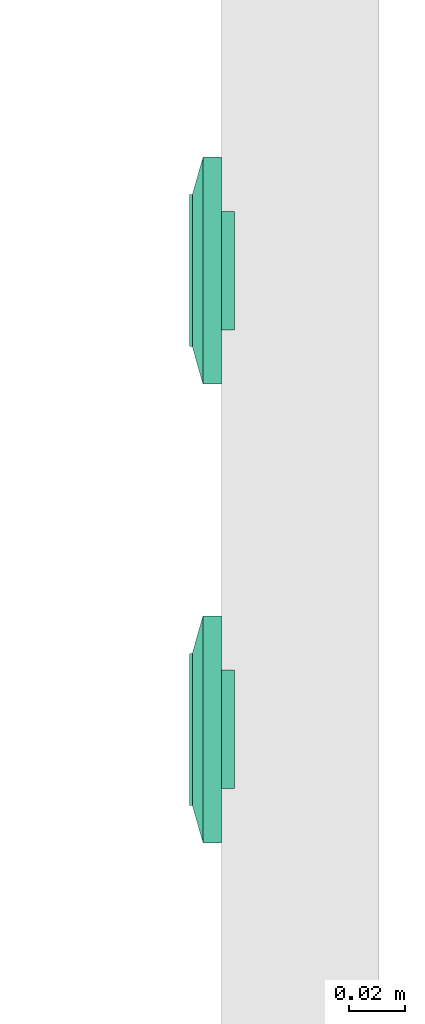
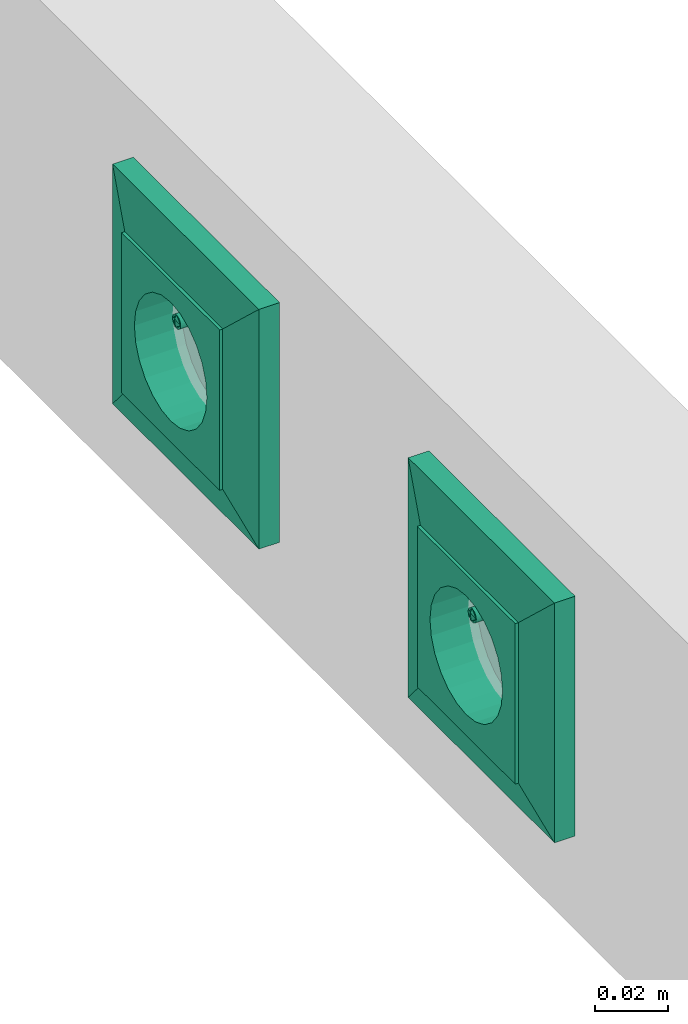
# One storey, part 42 of 166: 2 flow terminals.
"""IFC2X3 building model written with IfcOpenShell, lengths in metres."""

import ifcopenshell
import ifcopenshell.guid

model = None  # the IFC model being written
_history = None  # IfcOwnerHistory: only IFC2X3 demands one
_inside = {}  # id of a spatial element -> (the spatial element, [elements in it])
_under = {}  # id of a project, library or spatial element -> (it, [spatial elements below it])
_declared = {}  # id of a project -> (the project, [libraries it declares])
_typed = {}  # id of a type object -> (the type object, [elements of that type])
_made_of = {}  # id of a material, layer set ... -> (it, [elements and type objects made of it])


def new_model(schema):
    """Start an empty IFC model of exactly this schema.

    Asked for "IFC4X3", IfcOpenShell would pick the latest addendum, in which some entities
    have other attributes; the version numbers below select the first issue.
    IFC2X3 requires an IfcOwnerHistory on every rooted entity: one is made here for all.
    """
    global model, _history
    if schema == "IFC4X3":
        model = ifcopenshell.file(schema_version=(4, 3, 0, 0))
    else:
        model = ifcopenshell.file(schema=schema)
    _inside.clear()
    _under.clear()
    _declared.clear()
    _typed.clear()
    _made_of.clear()
    _history = None
    if model.schema == "IFC2X3":
        org = make("IfcOrganization", Name="unknown")
        user = make(
            "IfcPersonAndOrganization",
            ThePerson=make("IfcPerson", FamilyName="unknown"),
            TheOrganization=org,
        )
        app = make(
            "IfcApplication",
            ApplicationDeveloper=org,
            Version="unknown",
            ApplicationFullName="unknown",
            ApplicationIdentifier="unknown",
        )
        _history = make(
            "IfcOwnerHistory",
            OwningUser=user,
            OwningApplication=app,
            ChangeAction="ADDED",
            CreationDate=0,
        )
    return model


def make(cls, **values):
    """One entity of the class cls with the attributes given. An attribute that is None is left unset."""
    return model.create_entity(
        cls, **{name: value for name, value in values.items() if value is not None}
    )


def entity(cls, *values):
    """Any entity or typed value of the class cls, its attributes in the order of the schema. None: left unset."""
    e = model.create_entity(cls)
    for i, value in enumerate(values):
        if value is not None:
            e[i] = value
    return e


def rooted(cls, **values):
    """An entity with a GlobalId (a new one), such as an element, a storey or a relation."""
    return make(cls, GlobalId=ifcopenshell.guid.new(), OwnerHistory=_history, **values)


def si_unit(unit_type, name, prefix=None):
    """IfcSIUnit, for example si_unit("LENGTHUNIT", "METRE", prefix="MILLI")."""
    return make("IfcSIUnit", UnitType=unit_type, Prefix=prefix, Name=name)


def converted_unit(unit_type, name, factor, base, dimensions=None, offset=None):
    """IfcConversionBasedUnit, such as the inch: factor (a typed value) times the base unit."""
    return make(
        "IfcConversionBasedUnit"
        if offset is None
        else "IfcConversionBasedUnitWithOffset",
        ConversionOffset=offset,
        Dimensions=None
        if dimensions is None
        else entity("IfcDimensionalExponents", *dimensions),
        UnitType=unit_type,
        Name=name,
        ConversionFactor=make(
            "IfcMeasureWithUnit", ValueComponent=factor, UnitComponent=base
        ),
    )


def derived_unit(unit_type, elements):
    """IfcDerivedUnit: a product of units, each with its exponent."""
    return make(
        "IfcDerivedUnit",
        Elements=[
            make("IfcDerivedUnitElement", Unit=unit, Exponent=power)
            for unit, power in elements
        ],
        UnitType=unit_type,
    )


def assignment(units):
    """IfcUnitAssignment: the units of a project."""
    return None if units is None else make("IfcUnitAssignment", Units=units)


def point(xyz):
    """IfcCartesianPoint."""
    return None if xyz is None else make("IfcCartesianPoint", Coordinates=xyz)


def direction(xyz):
    """IfcDirection."""
    return None if xyz is None else make("IfcDirection", DirectionRatios=xyz)


def frame(location, z_axis=None, x_axis=None):
    """IfcAxis2Placement3D, a coordinate frame: its origin and axes. An axis left out is left unset."""
    return make(
        "IfcAxis2Placement3D",
        Location=point(location),
        Axis=direction(z_axis),
        RefDirection=direction(x_axis),
    )


def origin():
    """The frame at (0, 0, 0) with its axes left unset."""
    return frame((0.0, 0.0, 0.0))


def place(relative_to, where):
    """IfcLocalPlacement: puts the frame where relative to a parent placement (None: the world)."""
    return make(
        "IfcLocalPlacement", PlacementRelTo=relative_to, RelativePlacement=where
    )


def context(
    kind, dimensions, precision=None, world=None, true_north=None, identifier=None
):
    """IfcGeometricRepresentationContext, for example the 3D "Model" context."""
    return make(
        "IfcGeometricRepresentationContext",
        ContextIdentifier=identifier,
        ContextType=kind,
        CoordinateSpaceDimension=dimensions,
        Precision=precision,
        WorldCoordinateSystem=world,
        TrueNorth=true_north,
    )


def subcontext(parent, identifier, kind, view, scale=None):
    """IfcGeometricRepresentationSubContext, for example "Body" below "Model"."""
    return make(
        "IfcGeometricRepresentationSubContext",
        ContextIdentifier=identifier,
        ContextType=kind,
        ParentContext=parent,
        TargetScale=scale,
        TargetView=view,
    )


def project(units=None, contexts=None):
    """IfcProject with its units and contexts."""
    return rooted(
        "IfcProject",
        Name="project",
        RepresentationContexts=contexts,
        UnitsInContext=assignment(units),
    )


def spatial(cls, under=None, at=None, **own):
    """A site, building, storey or space (cls), placed at a placement, below another one or the project."""
    s = rooted(cls, ObjectPlacement=at, **own)
    if under is not None:
        _under.setdefault(under.id(), (under, []))[1].append(s)
    return s


def faces_of(points, faces, orient=None, outer=None):
    """IfcFace entities. A face is a list of loops; a loop is a list of indices into points, from 0.

    orient and outer hold one flag for each loop. By default every Orientation is true, the
    first loop of a face is its IfcFaceOuterBound and the others are IfcFaceBound.
    """
    made = []
    for i, loops in enumerate(faces):
        bounds = []
        for j, loop in enumerate(loops):
            is_outer = j == 0 if outer is None else outer[i][j]
            bounds.append(
                make(
                    "IfcFaceOuterBound" if is_outer else "IfcFaceBound",
                    Bound=make("IfcPolyLoop", Polygon=[points[k] for k in loop]),
                    Orientation=True if orient is None else orient[i][j],
                )
            )
        made.append(make("IfcFace", Bounds=bounds))
    return made


def face_set(faces, orient=None, outer=None):
    """The faces of one IfcConnectedFaceSet. surface_model builds it on its shared points."""
    return ("IfcConnectedFaceSet", faces, orient, outer)


def surface_model(cls, points, shells):
    """IfcFaceBasedSurfaceModel or IfcShellBasedSurfaceModel (cls): surfaces that need not close."""
    shared = [point(p) for p in points]
    made = [make(c, CfsFaces=faces_of(shared, fs, o, b)) for c, fs, o, b in shells]
    if cls == "IfcFaceBasedSurfaceModel":
        return make(cls, FbsmFaces=made)
    return make(cls, SbsmBoundary=made)


def shape(context_of_items, identifier, shape_type, items):
    """IfcShapeRepresentation: the items that make up one representation, for example the "Body"."""
    return make(
        "IfcShapeRepresentation",
        ContextOfItems=context_of_items,
        RepresentationIdentifier=identifier,
        RepresentationType=shape_type,
        Items=items,
    )


def source(mapping_origin, context_of_items, identifier, shape_type, items):
    """IfcRepresentationMap: a shape defined once, which mapped items show again and again."""
    return make(
        "IfcRepresentationMap",
        MappingOrigin=mapping_origin,
        MappedRepresentation=shape(context_of_items, identifier, shape_type, items),
    )


def transform(
    local_origin,
    x_axis=None,
    y_axis=None,
    z_axis=None,
    scale=None,
    scale2=None,
    scale3=None,
    uniform=True,
):
    """IfcCartesianTransformationOperator3D, or its non-uniform kind. x_axis, y_axis, z_axis: its Axis1, 2, 3."""
    if uniform:
        return make(
            "IfcCartesianTransformationOperator3D",
            Axis1=direction(x_axis),
            Axis2=direction(y_axis),
            LocalOrigin=point(local_origin),
            Scale=scale,
            Axis3=direction(z_axis),
        )
    return make(
        "IfcCartesianTransformationOperator3DnonUniform",
        Axis1=direction(x_axis),
        Axis2=direction(y_axis),
        LocalOrigin=point(local_origin),
        Scale=scale,
        Axis3=direction(z_axis),
        Scale2=scale2,
        Scale3=scale3,
    )


def mapped(mapping_source, mapping_target):
    """IfcMappedItem: shows the shape of a source again, moved by a transform."""
    return make(
        "IfcMappedItem", MappingSource=mapping_source, MappingTarget=mapping_target
    )


def made_of(thing, what):
    """Note that an element or type object is made of a material, layer set ...; save() writes the relation."""
    if what is not None:
        _made_of.setdefault(what.id(), (what, []))[1].append(thing)
    return thing


def type_object(cls, material=None, **own):
    """A type object (cls), such as IfcWallType, which elements share."""
    return made_of(rooted(cls, **own), material)


def type_shapes(of_type, sources):
    """Give a type object the sources (RepresentationMaps) that its elements show as mapped items."""
    of_type.RepresentationMaps = sources


def element(
    cls,
    number,
    at=None,
    inside=None,
    cuts=None,
    type_object=None,
    material=None,
    context=None,
    identifier="Body",
    shape_type=None,
    held_by="IfcProductDefinitionShape",
    body=None,
    shapes=None,
    **own,
):
    """One element of the class cls, such as IfcWall. Its Tag is "e" and its number.

    at: its placement. inside: the storey or other place that contains it. cuts: it is an
    opening in that element (IfcRelVoidsElement). A single representation is given by context,
    identifier, shape_type and body (its items); several are given by shapes. held_by: the class
    of the entity that holds the representations. save() writes the other relations.
    """
    e = rooted(cls, Tag="e%d" % number, ObjectPlacement=at, **own)
    if body is not None:
        shapes = [shape(context, identifier, shape_type, body)]
    if shapes is not None:
        e.Representation = make(held_by, Representations=shapes)
    if inside is not None:
        _inside.setdefault(inside.id(), (inside, []))[1].append(e)
    if cuts is not None:
        rooted(
            "IfcRelVoidsElement", RelatingBuildingElement=cuts, RelatedOpeningElement=e
        )
    if type_object is not None:
        _typed.setdefault(type_object.id(), (type_object, []))[1].append(e)
    return made_of(e, material)


def aggregate(whole, parts):
    """IfcRelAggregates: a whole, such as a stair, and the parts it consists of."""
    return rooted("IfcRelAggregates", RelatingObject=whole, RelatedObjects=parts)


def save(model, path):
    """Write the relations noted so far, then the file.

    IfcRelAggregates (storeys below a building ...), IfcRelContainedInSpatialStructure (elements
    in a storey), IfcRelDefinesByType, IfcRelAssociatesMaterial and IfcRelDeclares: one each for
    every whole, place, type object, material and project.
    """
    for whole, parts in _under.values():
        aggregate(whole, parts)
    for where, things in _inside.values():
        rooted(
            "IfcRelContainedInSpatialStructure",
            RelatedElements=things,
            RelatingStructure=where,
        )
    for kind, things in _typed.values():
        rooted("IfcRelDefinesByType", RelatedObjects=things, RelatingType=kind)
    for what, things in _made_of.values():
        rooted("IfcRelAssociatesMaterial", RelatedObjects=things, RelatingMaterial=what)
    for by, libraries in _declared.values():
        rooted("IfcRelDeclares", RelatingContext=by, RelatedDefinitions=libraries)
    model.write(path)


model = new_model("IFC2X3")

# Units and contexts
model_context = context("Model", 3, precision=1e-05, world=origin(), true_north=direction((6.12303176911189e-17, 1.0)))
body_context = subcontext(model_context, "Body", "Model", "MODEL_VIEW")
ifc_project = project(units=[si_unit("LENGTHUNIT", "METRE"), si_unit("AREAUNIT", "SQUARE_METRE"), si_unit("VOLUMEUNIT", "CUBIC_METRE"), converted_unit("PLANEANGLEUNIT", "DEGREE", entity("IfcRatioMeasure", 0.0174532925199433), si_unit("PLANEANGLEUNIT", "RADIAN"), dimensions=[0, 0, 0, 0, 0, 0, 0]), si_unit("MASSUNIT", "GRAM", prefix="KILO"), derived_unit("MASSDENSITYUNIT", [(si_unit("MASSUNIT", "GRAM", prefix="KILO"), 1), (si_unit("LENGTHUNIT", "METRE"), -3)]), si_unit("TIMEUNIT", "SECOND"), si_unit("FREQUENCYUNIT", "HERTZ"), si_unit("THERMODYNAMICTEMPERATUREUNIT", "DEGREE_CELSIUS"), derived_unit("THERMALTRANSMITTANCEUNIT", [(si_unit("MASSUNIT", "GRAM", prefix="KILO"), 1), (si_unit("THERMODYNAMICTEMPERATUREUNIT", "KELVIN"), -1), (si_unit("TIMEUNIT", "SECOND"), -3)]), derived_unit("VOLUMETRICFLOWRATEUNIT", [(si_unit("LENGTHUNIT", "METRE"), 3), (si_unit("TIMEUNIT", "SECOND"), -1)]), si_unit("ELECTRICCURRENTUNIT", "AMPERE"), si_unit("ELECTRICVOLTAGEUNIT", "VOLT"), si_unit("POWERUNIT", "WATT"), si_unit("FORCEUNIT", "NEWTON"), si_unit("ILLUMINANCEUNIT", "LUX"), si_unit("LUMINOUSFLUXUNIT", "LUMEN"), si_unit("LUMINOUSINTENSITYUNIT", "CANDELA"), derived_unit("USERDEFINED", [(si_unit("MASSUNIT", "GRAM", prefix="KILO"), -1), (si_unit("LENGTHUNIT", "METRE"), -2), (si_unit("TIMEUNIT", "SECOND"), 3), (si_unit("LUMINOUSFLUXUNIT", "LUMEN"), 1)]), derived_unit("LINEARVELOCITYUNIT", [(si_unit("LENGTHUNIT", "METRE"), 1), (si_unit("TIMEUNIT", "SECOND"), -1)]), si_unit("PRESSUREUNIT", "PASCAL"), derived_unit("USERDEFINED", [(si_unit("LENGTHUNIT", "METRE"), -2), (si_unit("MASSUNIT", "GRAM", prefix="KILO"), 1), (si_unit("TIMEUNIT", "SECOND"), -2)])], contexts=[model_context])

# Site, building, storey
site_placement = place(None, origin())
site = spatial("IfcSite", under=ifc_project, at=site_placement, Name="Default", CompositionType="ELEMENT")
building_placement = place(site_placement, origin())
building = spatial("IfcBuilding", under=site, at=building_placement, CompositionType="ELEMENT")
storey_placement = place(building_placement, frame((0.0, 0.0, 4.27)))
storey = spatial("IfcBuildingStorey", under=building, at=storey_placement, Name="01", CompositionType="ELEMENT", Elevation=4.27)

# Flow terminals
light_fixture_type = type_object("IfcLightFixtureType", Name="PC IP20", PredefinedType="NOTDEFINED")
shared_shape = source(origin(), body_context, "Body", "SurfaceModel", [
    surface_model("IfcFaceBasedSurfaceModel", [(-0.00225000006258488, 0.0127499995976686, 0.00949633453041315), (0.0, 0.0104999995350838, 0.00949633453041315), (0.0, 0.0115376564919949, 0.0101656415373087), (0.0, 0.0139623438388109, 0.0101656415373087), (0.0, 0.0144589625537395, 0.00984531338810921), (0.0, 0.0121178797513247, 0.0102778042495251), (0.0, 0.0133821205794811, 0.0102778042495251), (0.0, 0.0127499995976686, 0.010399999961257), (0.0, 0.0149999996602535, 0.00949633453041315), (0.00225000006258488, 0.0127499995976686, 0.00949633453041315), (0.0, 0.0110410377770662, 0.00984531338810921), (0.0, 0.0127499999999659, 0.00949633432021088), (0.00225000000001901, 0.0127499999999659, 0.00949633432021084), (0.00217333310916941, 0.0121676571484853, 0.00949633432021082), (0.00194855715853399, 0.0116249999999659, 0.00949633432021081), (0.00159099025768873, 0.0111590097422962, 0.00949633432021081), (0.001125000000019, 0.010801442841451, 0.00949633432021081), (0.00058234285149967, 0.0105766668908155, 0.00949633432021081), (0.0, 0.0104999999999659, 0.00949633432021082), (-0.000582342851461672, 0.0105766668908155, 0.00949633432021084), (-0.001124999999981, 0.010801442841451, 0.00949633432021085), (-0.00159099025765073, 0.0111590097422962, 0.00949633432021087), (-0.00194855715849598, 0.011624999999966, 0.00949633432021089), (-0.0021733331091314, 0.0121676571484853, 0.00949633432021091), (-0.00224999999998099, 0.012749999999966, 0.00949633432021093), (-0.00217333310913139, 0.0133323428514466, 0.00949633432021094), (-0.00194855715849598, 0.013874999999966, 0.00949633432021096), (-0.00159099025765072, 0.0143409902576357, 0.00949633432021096), (-0.00112499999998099, 0.0146985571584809, 0.00949633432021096), (-0.00058234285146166, 0.0149233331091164, 0.00949633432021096), (0.0, 0.0149999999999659, 0.00949633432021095), (0.000582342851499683, 0.0149233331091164, 0.00949633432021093), (0.00112500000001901, 0.0146985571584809, 0.00949633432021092), (0.00159099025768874, 0.0143409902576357, 0.00949633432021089), (0.001948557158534, 0.0138749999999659, 0.00949633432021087), (0.00217333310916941, 0.0133323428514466, 0.00949633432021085), (0.00225000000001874, 0.0127499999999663, -0.00360000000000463), (0.00217333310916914, 0.0121676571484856, -0.00360000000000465), (0.00194855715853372, 0.0116249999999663, -0.00360000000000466), (0.00159099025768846, 0.0111590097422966, -0.00360000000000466), (0.00112500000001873, 0.0108014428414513, -0.00360000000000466), (0.000582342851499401, 0.0105766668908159, -0.00360000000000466), (0.0, 0.0104999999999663, -0.00360000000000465), (-0.000582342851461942, 0.0105766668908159, -0.00360000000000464), (-0.00112499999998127, 0.0108014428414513, -0.00360000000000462), (-0.001590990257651, 0.0111590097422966, -0.0036000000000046), (-0.00194855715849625, 0.0116249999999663, -0.00360000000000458), (-0.00217333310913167, 0.0121676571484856, -0.00360000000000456), (-0.00224999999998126, 0.0127499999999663, -0.00360000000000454), (-0.00217333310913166, 0.013332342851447, -0.00360000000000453), (-0.00194855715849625, 0.0138749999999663, -0.00360000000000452), (-0.00159099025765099, 0.014340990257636, -0.00360000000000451), (-0.00112499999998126, 0.0146985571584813, -0.00360000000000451), (-0.000582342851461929, 0.0149233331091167, -0.00360000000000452), (0.0, 0.0149999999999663, -0.00360000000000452), (0.000582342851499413, 0.0149233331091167, -0.00360000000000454), (0.00112500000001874, 0.0146985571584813, -0.00360000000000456), (0.00159099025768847, 0.014340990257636, -0.00360000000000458), (0.00194855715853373, 0.0138749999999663, -0.0036000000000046), (0.00217333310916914, 0.013332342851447, -0.00360000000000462), (0.0270000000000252, 0.026999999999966, 0.0113999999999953), (-0.0269999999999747, 0.026999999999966, 0.0113999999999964), (-0.0269999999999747, -0.0270000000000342, 0.0113999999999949), (0.0270000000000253, -0.0270000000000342, 0.0113999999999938), (-0.0199999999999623, 0.0, 0.0113999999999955), (-0.0193185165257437, -0.00517638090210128, 0.0113999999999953), (-0.0173205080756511, -0.0100000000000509, 0.0113999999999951), (-0.0141421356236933, -0.0141421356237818, 0.011399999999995), (-0.00999999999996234, -0.0173205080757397, 0.0113999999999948), (-0.00517638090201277, -0.0193185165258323, 0.0113999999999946), (0.0, -0.0200000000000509, 0.0113999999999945), (0.00517638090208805, -0.0193185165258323, 0.0113999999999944), (0.0100000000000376, -0.0173205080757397, 0.0113999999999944), (0.0141421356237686, -0.0141421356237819, 0.0113999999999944), (0.0173205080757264, -0.010000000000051, 0.0113999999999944), (0.0193185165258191, -0.00517638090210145, 0.0113999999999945), (0.0200000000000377, 0.0, 0.0113999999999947), (0.0193185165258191, 0.00517638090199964, 0.0113999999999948), (0.0173205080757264, 0.0099999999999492, 0.011399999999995), (0.0141421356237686, 0.0141421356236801, 0.0113999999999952), (0.0100000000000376, 0.0173205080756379, 0.0113999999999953), (0.00517638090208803, 0.0193185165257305, 0.0113999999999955), (0.0, 0.0199999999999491, 0.0113999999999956), (-0.00517638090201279, 0.0193185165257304, 0.0113999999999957), (-0.00999999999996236, 0.0173205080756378, 0.0113999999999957), (-0.0141421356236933, 0.01414213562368, 0.0113999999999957), (-0.0173205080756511, 0.00999999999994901, 0.0113999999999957), (-0.0193185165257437, 0.00517638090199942, 0.0113999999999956), (0.0270000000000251, 0.0269999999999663, 0.00199999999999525), (0.0270000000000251, -0.0270000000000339, 0.00199999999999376), (-0.0269999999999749, -0.0270000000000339, 0.00199999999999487), (-0.0269999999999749, 0.0269999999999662, 0.00199999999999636), (0.0210000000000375, 0.0, 0.00199999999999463), (0.0202844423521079, -0.00543519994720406, 0.00199999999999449), (0.0181865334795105, -0.0105000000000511, 0.0019999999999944), (0.0148492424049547, -0.0148492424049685, 0.00199999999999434), (0.0105000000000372, -0.0181865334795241, 0.00199999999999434), (0.0054351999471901, -0.0202844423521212, 0.00199999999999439), (0.0, -0.0210000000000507, 0.00199999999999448), (-0.00543519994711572, -0.020284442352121, 0.00199999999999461), (-0.0104999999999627, -0.0181865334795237, 0.00199999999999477), (-0.0148492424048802, -0.014849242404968, 0.00199999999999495), (-0.0181865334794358, -0.0105000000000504, 0.00199999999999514), (-0.020284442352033, -0.00543519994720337, 0.00199999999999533), (-0.0209999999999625, 0.0, 0.00199999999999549), (-0.0202844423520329, 0.0054351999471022, 0.00199999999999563), (-0.0181865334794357, 0.0104999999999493, 0.00199999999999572), (-0.01484924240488, 0.0148492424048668, 0.00199999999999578), (-0.0104999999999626, 0.0181865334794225, 0.00199999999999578), (-0.00543519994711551, 0.0202844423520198, 0.00199999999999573), (0.0, 0.0209999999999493, 0.00199999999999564), (0.00543519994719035, 0.0202844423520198, 0.00199999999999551), (0.0105000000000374, 0.0181865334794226, 0.00199999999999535), (0.0148492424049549, 0.0148492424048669, 0.00199999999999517), (0.0181865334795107, 0.0104999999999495, 0.00199999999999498), (0.0202844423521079, 0.00543519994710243, 0.00199999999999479), (0.0200000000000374, 0.0, -0.00360000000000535), (0.0193185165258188, -0.00517638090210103, -0.00360000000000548), (0.0173205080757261, -0.0100000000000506, -0.00360000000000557), (0.0141421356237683, -0.0141421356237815, -0.00360000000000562), (0.0100000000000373, -0.0173205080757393, -0.00360000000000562), (0.00517638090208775, -0.0193185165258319, -0.00360000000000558), (0.0, -0.0200000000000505, -0.00360000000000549), (-0.00517638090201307, -0.0193185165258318, -0.00360000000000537), (-0.00999999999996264, -0.0173205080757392, -0.00360000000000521), (-0.0141421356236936, -0.0141421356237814, -0.00360000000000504), (-0.0173205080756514, -0.0100000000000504, -0.00360000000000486), (-0.019318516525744, -0.00517638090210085, -0.00360000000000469), (-0.0199999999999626, 0.0, -0.00360000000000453), (-0.0193185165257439, 0.00517638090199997, -0.0036000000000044), (-0.0173205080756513, 0.00999999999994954, -0.00360000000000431), (-0.0141421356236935, 0.0141421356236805, -0.00360000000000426), (-0.00999999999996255, 0.0173205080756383, -0.00360000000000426), (-0.00517638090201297, 0.0193185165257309, -0.0036000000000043), (0.0, 0.0199999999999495, -0.00360000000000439), (0.00517638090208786, 0.0193185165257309, -0.00360000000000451), (0.0100000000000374, 0.0173205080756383, -0.00360000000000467), (0.0141421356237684, 0.0141421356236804, -0.00360000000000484), (0.0173205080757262, 0.0099999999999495, -0.00360000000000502), (0.0193185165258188, 0.00517638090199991, -0.00360000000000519), (-0.0123499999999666, 0.0, -0.00360000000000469), (-0.0122562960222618, -0.000711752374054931, -0.00360000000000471), (-0.0119815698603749, -0.00137500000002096, -0.00360000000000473), (-0.0115445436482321, -0.00194454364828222, -0.00360000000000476), (-0.0109749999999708, -0.00238156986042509, -0.00360000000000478), (-0.0103117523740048, -0.00265629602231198, -0.0036000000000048), (-0.00959999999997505, -0.00275000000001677, -0.00360000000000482), (-0.0088882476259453, -0.00265629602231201, -0.00360000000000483), (-0.00822499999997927, -0.00238156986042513, -0.00360000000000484), (-0.00765545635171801, -0.00194454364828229, -0.00360000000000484), (-0.00721843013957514, -0.00137500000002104, -0.00360000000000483), (-0.00694370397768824, -0.000711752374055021, -0.00360000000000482), (-0.00684999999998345, 0.0, -0.0036000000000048), (-0.00694370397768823, 0.000711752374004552, -0.00360000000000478), (-0.00721843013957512, 0.00137499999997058, -0.00360000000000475), (-0.00765545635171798, 0.00194454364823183, -0.00360000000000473), (-0.00822499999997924, 0.00238156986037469, -0.0036000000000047), (-0.00888824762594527, 0.00265629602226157, -0.00360000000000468), (-0.00959999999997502, 0.00274999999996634, -0.00360000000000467), (-0.0103117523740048, 0.00265629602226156, -0.00360000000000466), (-0.0109749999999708, 0.00238156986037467, -0.00360000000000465), (-0.011544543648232, 0.00194454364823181, -0.00360000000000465), (-0.0119815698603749, 0.00137499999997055, -0.00360000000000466), (-0.0122562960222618, 0.000711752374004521, -0.00360000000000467), (0.00685000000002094, 0.0, -0.00360000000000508), (0.0069437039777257, -0.00071175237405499, -0.0036000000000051), (0.00721843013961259, -0.00137500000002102, -0.00360000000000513), (0.00765545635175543, -0.00194454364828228, -0.00360000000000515), (0.00822500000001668, -0.00238156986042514, -0.00360000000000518), (0.00888824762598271, -0.00265629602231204, -0.0036000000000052), (0.00960000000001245, -0.00275000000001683, -0.00360000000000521), (0.0103117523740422, -0.00265629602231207, -0.00360000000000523), (0.0109750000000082, -0.00238156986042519, -0.00360000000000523), (0.0115445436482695, -0.00194454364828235, -0.00360000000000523), (0.0119815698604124, -0.0013750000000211, -0.00360000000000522), (0.0122562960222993, -0.00071175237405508, -0.00360000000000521), (0.012350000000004, 0.0, -0.00360000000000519), (0.0122562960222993, 0.000711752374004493, -0.00360000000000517), (0.0119815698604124, 0.00137499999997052, -0.00360000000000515), (0.0115445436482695, 0.00194454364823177, -0.00360000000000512), (0.0109750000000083, 0.00238156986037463, -0.0036000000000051), (0.0103117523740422, 0.00265629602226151, -0.00360000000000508), (0.00960000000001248, 0.00274999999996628, -0.00360000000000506), (0.00888824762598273, 0.0026562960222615, -0.00360000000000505), (0.0082250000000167, 0.00238156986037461, -0.00360000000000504), (0.00765545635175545, 0.00194454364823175, -0.00360000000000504), (0.0072184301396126, 0.00137499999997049, -0.00360000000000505), (0.00694370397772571, 0.000711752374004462, -0.00360000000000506), (0.0210000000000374, 0.0, -0.00460000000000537), (0.0202844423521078, -0.00543519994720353, -0.00460000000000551), (0.0181865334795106, -0.0105000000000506, -0.0046000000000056), (0.0148492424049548, -0.0148492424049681, -0.00460000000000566), (0.0105000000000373, -0.0181865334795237, -0.00460000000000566), (0.00543519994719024, -0.0202844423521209, -0.00460000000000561), (0.0, -0.0210000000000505, -0.00460000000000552), (-0.00543519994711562, -0.0202844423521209, -0.00460000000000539), (-0.0104999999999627, -0.0181865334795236, -0.00460000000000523), (-0.0148492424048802, -0.0148492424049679, -0.00460000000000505), (-0.0181865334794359, -0.0105000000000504, -0.00460000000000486), (-0.0202844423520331, -0.00543519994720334, -0.00460000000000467), (-0.0209999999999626, 0.0, -0.00460000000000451), (-0.020284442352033, 0.00543519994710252, -0.00460000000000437), (-0.0181865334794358, 0.0104999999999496, -0.00460000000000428), (-0.0148492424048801, 0.0148492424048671, -0.00460000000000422), (-0.0104999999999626, 0.0181865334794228, -0.00460000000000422), (-0.00543519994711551, 0.02028444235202, -0.00460000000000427), (0.0, 0.0209999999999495, -0.00460000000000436), (0.00543519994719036, 0.02028444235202, -0.00460000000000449), (0.0105000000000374, 0.0181865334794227, -0.00460000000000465), (0.0148492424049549, 0.014849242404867, -0.00460000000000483), (0.0181865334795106, 0.0104999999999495, -0.00460000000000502), (0.0202844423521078, 0.00543519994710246, -0.00460000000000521), (-0.00684999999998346, 0.0, -0.0046000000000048), (-0.00694370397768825, 0.000711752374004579, -0.00460000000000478), (-0.00721843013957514, 0.00137499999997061, -0.00460000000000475), (-0.007655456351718, 0.00194454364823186, -0.00460000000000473), (-0.00822499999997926, 0.00238156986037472, -0.0046000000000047), (-0.00888824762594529, 0.0026562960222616, -0.00460000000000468), (-0.00959999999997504, 0.00274999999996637, -0.00460000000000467), (-0.0103117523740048, 0.00265629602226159, -0.00460000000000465), (-0.0109749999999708, 0.0023815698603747, -0.00460000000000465), (-0.0115445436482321, 0.00194454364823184, -0.00460000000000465), (-0.0119815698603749, 0.00137499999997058, -0.00460000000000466), (-0.0122562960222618, 0.000711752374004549, -0.00460000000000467), (-0.0123499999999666, 0.0, -0.00460000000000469), (-0.0122562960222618, -0.000711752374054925, -0.00460000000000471), (-0.0119815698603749, -0.00137500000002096, -0.00460000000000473), (-0.0115445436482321, -0.00194454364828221, -0.00460000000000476), (-0.0109749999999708, -0.00238156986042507, -0.00460000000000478), (-0.0103117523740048, -0.00265629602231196, -0.0046000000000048), (-0.00959999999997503, -0.00275000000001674, -0.00460000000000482), (-0.00888824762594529, -0.00265629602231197, -0.00460000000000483), (-0.00822499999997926, -0.00238156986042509, -0.00460000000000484), (-0.007655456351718, -0.00194454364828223, -0.00460000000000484), (-0.00721843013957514, -0.00137500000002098, -0.00460000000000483), (-0.00694370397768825, -0.000711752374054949, -0.00460000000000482), (0.012350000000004, 0.0, -0.00460000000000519), (0.0122562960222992, 0.000711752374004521, -0.00460000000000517), (0.0119815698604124, 0.00137499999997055, -0.00460000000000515), (0.0115445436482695, 0.0019445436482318, -0.00460000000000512), (0.0109750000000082, 0.00238156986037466, -0.0046000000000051), (0.0103117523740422, 0.00265629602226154, -0.00460000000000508), (0.00960000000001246, 0.00274999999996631, -0.00460000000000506), (0.00888824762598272, 0.00265629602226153, -0.00460000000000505), (0.00822500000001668, 0.00238156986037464, -0.00460000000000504), (0.00765545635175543, 0.00194454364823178, -0.00460000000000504), (0.00721843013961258, 0.00137499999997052, -0.00460000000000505), (0.00694370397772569, 0.00071175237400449, -0.00460000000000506), (0.00685000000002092, 0.0, -0.00460000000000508), (0.00694370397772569, -0.000711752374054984, -0.0046000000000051), (0.00721843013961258, -0.00137500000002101, -0.00460000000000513), (0.00765545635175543, -0.00194454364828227, -0.00460000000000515), (0.00822500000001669, -0.00238156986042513, -0.00460000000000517), (0.00888824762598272, -0.00265629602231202, -0.0046000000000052), (0.00960000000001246, -0.0027500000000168, -0.00460000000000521), (0.0103117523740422, -0.00265629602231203, -0.00460000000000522), (0.0109750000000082, -0.00238156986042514, -0.00460000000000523), (0.0115445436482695, -0.00194454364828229, -0.00460000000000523), (0.0119815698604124, -0.00137500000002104, -0.00460000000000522), (0.0122562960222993, -0.000711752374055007, -0.00460000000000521), (0.040350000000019, 0.0403499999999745, 0.00659999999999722), (0.040350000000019, -0.0403500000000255, 0.00659999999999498), (-0.0403499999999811, -0.0403500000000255, 0.00659999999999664), (-0.0403499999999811, 0.0403499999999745, 0.00659999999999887), (0.027000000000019, 0.0269999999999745, 0.00659999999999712), (-0.0269999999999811, 0.0269999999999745, 0.00659999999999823), (-0.026999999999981, -0.0270000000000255, 0.00659999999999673), (0.027000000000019, -0.0270000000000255, 0.00659999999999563), (0.027000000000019, 0.0269999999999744, 0.0103999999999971), (-0.026999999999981, 0.0269999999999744, 0.0103999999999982), (-0.026999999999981, -0.0270000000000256, 0.0103999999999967), (0.027000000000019, -0.0270000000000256, 0.0103999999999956), (0.040350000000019, 0.0403499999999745, 0.00659999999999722), (0.040350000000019, -0.0403500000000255, 0.00659999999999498), (-0.0403499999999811, -0.0403500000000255, 0.00659999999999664), (-0.0403499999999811, 0.0403499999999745, 0.00659999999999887), (-0.0269999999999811, 0.0269999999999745, 0.00659999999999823), (-0.0269999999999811, -0.0270000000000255, 0.00659999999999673), (0.0270000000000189, -0.0270000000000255, 0.00659999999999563), (0.0270000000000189, 0.0269999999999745, 0.00659999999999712), (0.0403500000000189, 0.0403499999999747, 0.0), (0.0403500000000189, -0.0403500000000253, 0.0), (-0.0403499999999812, -0.0403500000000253, 0.0), (-0.0403499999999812, 0.0403499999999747, 0.0), (0.0270000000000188, 0.0269999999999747, 0.0), (-0.0269999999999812, 0.0269999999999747, 0.0), (-0.0269999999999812, -0.0270000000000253, 0.0), (0.0270000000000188, -0.0270000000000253, 0.0)], [face_set([[[0, 1, 2]], [[3, 4, 2, 5]], [[6, 3, 5, 7]], [[2, 4, 0]], [[4, 8, 0]], [[3, 9, 8]], [[1, 9, 10]], [[2, 3, 6, 7]], [[3, 10, 9]], [[2, 10, 3]], [[11, 1, 0, 8]], [[11, 8, 9, 1]]]), face_set([[[12, 13, 14, 15, 16, 17, 18, 19, 20, 21, 22, 23, 24, 25, 26, 27, 28, 29, 30, 31, 32, 33, 34, 35]], [[36, 37, 38, 39, 40, 41, 42, 43, 44, 45, 46, 47, 48, 49, 50, 51, 52, 53, 54, 55, 56, 57, 58, 59]], [[48, 47, 23, 24]], [[47, 46, 22, 23]], [[45, 44, 20, 21]], [[46, 45, 21, 22]], [[44, 43, 19, 20]], [[18, 19, 43, 42]], [[42, 41, 17, 18]], [[41, 40, 16, 17]], [[39, 38, 14, 15]], [[40, 39, 15, 16]], [[38, 37, 13, 14]], [[12, 13, 37, 36]], [[36, 59, 35, 12]], [[59, 58, 34, 35]], [[57, 56, 32, 33]], [[58, 57, 33, 34]], [[56, 55, 31, 32]], [[30, 31, 55, 54]], [[54, 53, 29, 30]], [[53, 52, 28, 29]], [[51, 50, 26, 27]], [[52, 51, 27, 28]], [[50, 49, 25, 26]], [[24, 25, 49, 48]]]), face_set([[[60, 61, 62, 63], [64, 65, 66, 67, 68, 69, 70, 71, 72, 73, 74, 75, 76, 77, 78, 79, 80, 81, 82, 83, 84, 85, 86, 87]], [[88, 89, 90, 91], [92, 93, 94, 95, 96, 97, 98, 99, 100, 101, 102, 103, 104, 105, 106, 107, 108, 109, 110, 111, 112, 113, 114, 115]], [[61, 60, 88, 91]], [[62, 61, 91, 90]], [[63, 62, 90, 89]], [[60, 63, 89, 88]], [[116, 117, 118, 119, 120, 121, 122, 123, 124, 125, 126, 127, 128, 129, 130, 131, 132, 133, 134, 135, 136, 137, 138, 139], [140, 141, 142, 143, 144, 145, 146, 147, 148, 149, 150, 151, 152, 153, 154, 155, 156, 157, 158, 159, 160, 161, 162, 163], [164, 165, 166, 167, 168, 169, 170, 171, 172, 173, 174, 175, 176, 177, 178, 179, 180, 181, 182, 183, 184, 185, 186, 187]], [[64, 128, 127, 65]], [[65, 127, 126, 66]], [[67, 125, 124, 68]], [[66, 126, 125, 67]], [[68, 124, 123, 69]], [[122, 70, 69, 123]], [[70, 122, 121, 71]], [[71, 121, 120, 72]], [[73, 119, 118, 74]], [[72, 120, 119, 73]], [[74, 118, 117, 75]], [[116, 76, 75, 117]], [[76, 116, 139, 77]], [[77, 139, 138, 78]], [[79, 137, 136, 80]], [[78, 138, 137, 79]], [[80, 136, 135, 81]], [[134, 82, 81, 135]], [[82, 134, 133, 83]], [[83, 133, 132, 84]], [[84, 132, 131, 85]], [[85, 131, 130, 86]], [[130, 129, 87, 86]], [[64, 87, 129, 128]], [[188, 189, 190, 191, 192, 193, 194, 195, 196, 197, 198, 199, 200, 201, 202, 203, 204, 205, 206, 207, 208, 209, 210, 211], [212, 213, 214, 215, 216, 217, 218, 219, 220, 221, 222, 223, 224, 225, 226, 227, 228, 229, 230, 231, 232, 233, 234, 235], [236, 237, 238, 239, 240, 241, 242, 243, 244, 245, 246, 247, 248, 249, 250, 251, 252, 253, 254, 255, 256, 257, 258, 259]], [[200, 199, 103, 104]], [[199, 198, 102, 103]], [[197, 196, 100, 101]], [[198, 197, 101, 102]], [[196, 195, 99, 100]], [[98, 99, 195, 194]], [[194, 193, 97, 98]], [[193, 192, 96, 97]], [[191, 190, 94, 95]], [[192, 191, 95, 96]], [[190, 189, 93, 94]], [[92, 93, 189, 188]], [[188, 211, 115, 92]], [[211, 210, 114, 115]], [[209, 208, 112, 113]], [[210, 209, 113, 114]], [[208, 207, 111, 112]], [[110, 111, 207, 206]], [[206, 205, 109, 110]], [[205, 204, 108, 109]], [[203, 202, 106, 107]], [[204, 203, 107, 108]], [[202, 201, 105, 106]], [[104, 105, 201, 200]], [[141, 225, 226, 142]], [[140, 224, 225, 141]], [[144, 228, 229, 145]], [[143, 227, 228, 144]], [[142, 226, 227, 143]], [[230, 146, 145, 229]], [[149, 233, 232, 148]], [[148, 232, 231, 147]], [[152, 212, 235, 151]], [[151, 235, 234, 150]], [[150, 234, 233, 149]], [[146, 230, 231, 147]], [[154, 214, 213, 153]], [[153, 213, 212, 152]], [[157, 217, 216, 156]], [[156, 216, 215, 155]], [[155, 215, 214, 154]], [[218, 158, 157, 217]], [[160, 220, 221, 161]], [[159, 219, 220, 160]], [[163, 223, 224, 140]], [[162, 222, 223, 163]], [[161, 221, 222, 162]], [[158, 218, 219, 159]], [[166, 250, 249, 165]], [[165, 249, 248, 164]], [[169, 253, 252, 168]], [[168, 252, 251, 167]], [[167, 251, 250, 166]], [[254, 170, 169, 253]], [[172, 256, 257, 173]], [[171, 255, 256, 172]], [[175, 259, 236, 176]], [[174, 258, 259, 175]], [[173, 257, 258, 174]], [[170, 254, 255, 171]], [[177, 237, 238, 178]], [[176, 236, 237, 177]], [[180, 240, 241, 181]], [[179, 239, 240, 180]], [[178, 238, 239, 179]], [[242, 182, 181, 241]], [[185, 245, 244, 184]], [[184, 244, 243, 183]], [[164, 248, 247, 187]], [[187, 247, 246, 186]], [[186, 246, 245, 185]], [[182, 242, 243, 183]]]), face_set([[[260, 261, 262, 263], [264, 265, 266, 267]], [[260, 268, 269, 263]], [[263, 269, 270, 262]], [[262, 270, 271, 261]], [[261, 271, 268, 260]], [[264, 265, 269, 268]], [[265, 266, 270, 269]], [[266, 267, 271, 270]], [[268, 271, 267, 264]]]), face_set([[[272, 273, 274, 275], [276, 277, 278, 279]], [[280, 281, 282, 283], [284, 285, 286, 287]], [[275, 272, 280, 283]], [[274, 275, 283, 282]], [[273, 274, 282, 281]], [[272, 273, 281, 280]], [[284, 285, 276, 279]], [[285, 286, 277, 276]], [[286, 287, 278, 277]], [[279, 278, 287, 284]]])]),
])
type_shapes(light_fixture_type, [shared_shape])
for number, where, z_axis, x_axis in (
    (1, (37.3667436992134, -191.878554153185, 4.70800000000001), (-1.0, 0.0, 0.0), (0.0, -1.0, 0.0)),
    (2, (37.3667436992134, -192.041554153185, 4.70800000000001), (-1.0, 0.0, 0.0), (0.0, -1.0, 0.0)),
):
    element("IfcFlowTerminal", number, at=place(building_placement, frame(where, z_axis=z_axis, x_axis=x_axis)), inside=storey, type_object=light_fixture_type, Name="INT Prise de courant:PC IP20", ObjectType="INT Prise de courant:PC IP20", context=body_context, shape_type="MappedRepresentation", body=[
        mapped(shared_shape, transform((0.0, 0.0, 0.0), scale=1.0)),
    ])

save(model, "model.ifc")
